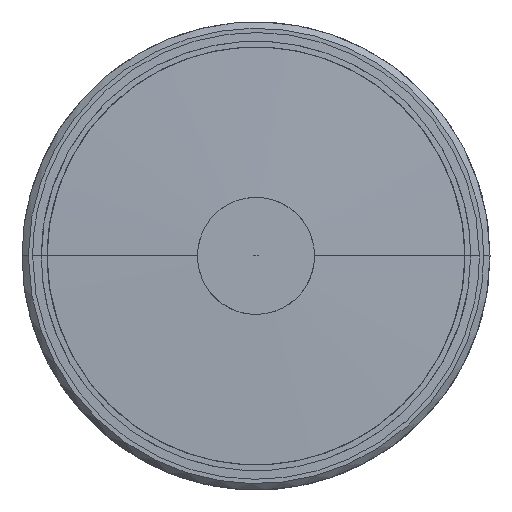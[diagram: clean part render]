
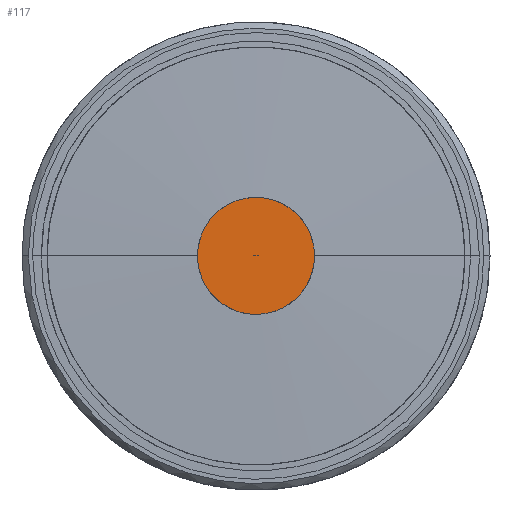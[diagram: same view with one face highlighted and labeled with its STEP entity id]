
A CAD part, top view. The second image highlights one B-rep face of the part: STEP entity #117.
In plain terms, the highlighted planar face has unit normal (0, 0, 1).
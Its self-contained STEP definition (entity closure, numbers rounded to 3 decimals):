
#117=ADVANCED_FACE('',(#404),#4031,.T.);
#404=FACE_OUTER_BOUND('',#691,.T.);
#691=EDGE_LOOP('',(#1060,#1061));
#1060=ORIENTED_EDGE('',*,*,#2353,.F.);
#1061=ORIENTED_EDGE('',*,*,#2349,.F.);
#2349=EDGE_CURVE('',#3648,#3649,#3348,.T.);
#2353=EDGE_CURVE('',#3649,#3648,#3350,.T.);
#3348=(
BOUNDED_CURVE()
B_SPLINE_CURVE(2,(#4883,#4884,#4885,#4886,#4887),.UNSPECIFIED.,.F.,.F.)
B_SPLINE_CURVE_WITH_KNOTS((3,2,3),(0.,43.197,86.394),
 .UNSPECIFIED.)
CURVE()
GEOMETRIC_REPRESENTATION_ITEM()
RATIONAL_B_SPLINE_CURVE((1.,0.707,1.,0.707,1.))
REPRESENTATION_ITEM('')
);
#3350=(
BOUNDED_CURVE()
B_SPLINE_CURVE(2,(#4897,#4898,#4899,#4900,#4901),.UNSPECIFIED.,.F.,.F.)
B_SPLINE_CURVE_WITH_KNOTS((3,2,3),(0.,43.197,86.394),
 .UNSPECIFIED.)
CURVE()
GEOMETRIC_REPRESENTATION_ITEM()
RATIONAL_B_SPLINE_CURVE((1.,0.707,1.,0.707,1.))
REPRESENTATION_ITEM('')
);
#3648=VERTEX_POINT('',#4815);
#3649=VERTEX_POINT('',#4816);
#4031=PLANE('',#4334);
#4334=AXIS2_PLACEMENT_3D('',#4688,#4421,$);
#4421=DIRECTION('',(0.,0.,1.));
#4688=CARTESIAN_POINT('',(-33.,317.916,350.916));
#4815=CARTESIAN_POINT('',(-27.5,350.916,350.916));
#4816=CARTESIAN_POINT('',(27.5,350.916,350.916));
#4883=CARTESIAN_POINT('',(-27.5,350.916,350.916));
#4884=CARTESIAN_POINT('',(-27.5,378.416,350.916));
#4885=CARTESIAN_POINT('',(0.,378.416,350.916));
#4886=CARTESIAN_POINT('',(27.5,378.416,350.916));
#4887=CARTESIAN_POINT('',(27.5,350.916,350.916));
#4897=CARTESIAN_POINT('',(27.5,350.916,350.916));
#4898=CARTESIAN_POINT('',(27.5,323.416,350.916));
#4899=CARTESIAN_POINT('',(0.,323.416,350.916));
#4900=CARTESIAN_POINT('',(-27.5,323.416,350.916));
#4901=CARTESIAN_POINT('',(-27.5,350.916,350.916));
